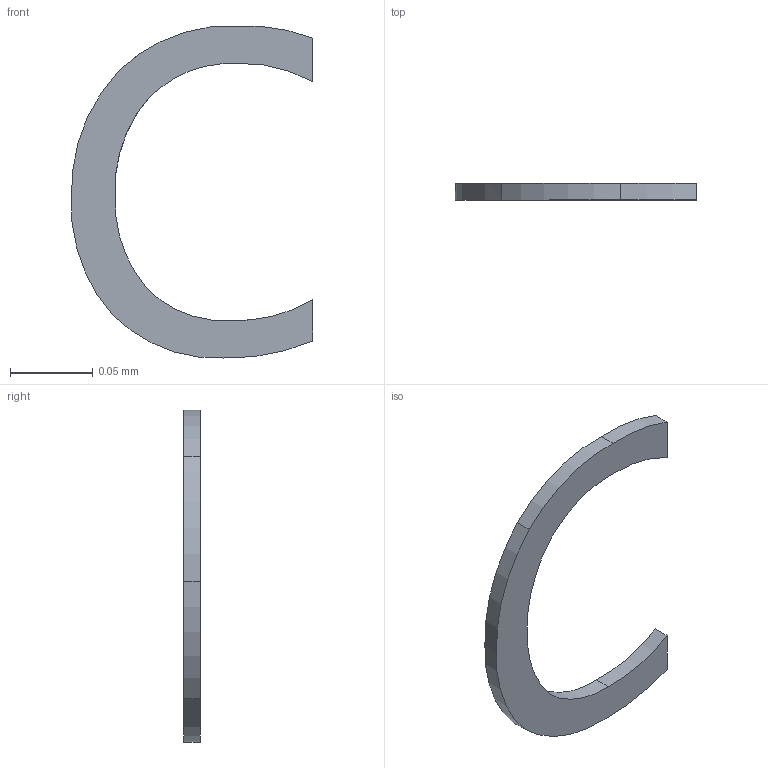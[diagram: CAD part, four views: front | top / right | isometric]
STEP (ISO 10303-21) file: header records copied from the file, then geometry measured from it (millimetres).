
FILE_DESCRIPTION(/* description */ ('STEP AP242 Edition 2','CAx-IF Rec.Pracs.---Representation and Presentation of Product Manufacturing Information (PMI)---4.0---2014-10-13','CAx-IF Rec.Pracs.---3D Tessellated Geometry---0.4---2014-09-14','2;1','CAx-IF Rec.Pracs.---User Defined Attributes---1.5---2016-08-15'),/* implementation_level */ '2;1');
FILE_NAME(/* name */ 'Assembly 1 - SW-TH_3P-L5.8_WSGT-3P-CC~SW-TH_3P-L5.8_WSGT-3P-CC~nxQB (10)',/* time_stamp */ '2026-04-02T09:55:27Z',/* author */ (''),/* organization */ (''),/* preprocessor_version */ 'ST-DEVELOPER v20',/* originating_system */ 'ONSHAPE BY PTC INC, 1.212',/* authorisation */ ' ');
FILE_SCHEMA (('AP242_MANAGED_MODEL_BASED_3D_ENGINEERING_MIM_LF { 1 0 10303 442 3 1 4 }'));
Length unit declared in the file: metre
Products named in the file (1): SW-TH_3P-L5.8_WSGT-3P-CC~SW-TH_3P-L5.8_WSGT-3P-CC~nxQB
Bounding box: 0.15 x 0.01 x 0.2 mm (x, y, z)
Volume: 0 mm3; surface area: 0 mm2
Topology: 1 solids, 1 shells, 16 faces, 42 edges, 28 vertices
Faces by surface type: cylinder 10, plane 4, sphere 2
Entity records: 655 total; most frequent: CARTESIAN_POINT 117, DIRECTION 90, ORIENTED_EDGE 84, EDGE_CURVE 42, AXIS2_PLACEMENT_3D 41, VERTEX_POINT 28, CIRCLE 24, PRESENTATION_STYLE_ASSIGNMENT 17
